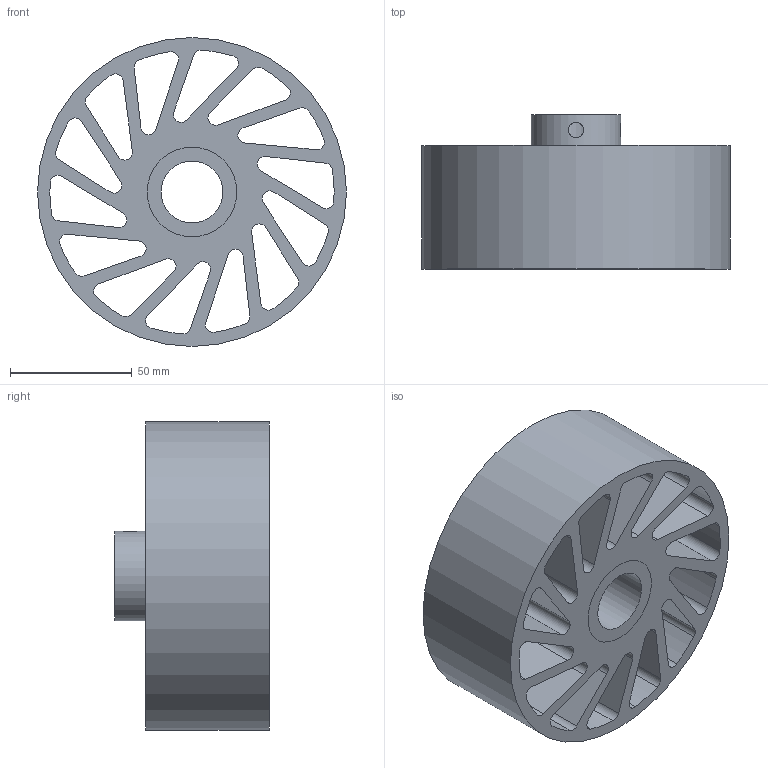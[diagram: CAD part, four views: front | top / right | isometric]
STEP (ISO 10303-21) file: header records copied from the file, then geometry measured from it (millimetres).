
FILE_DESCRIPTION(/* description */ (''),/* implementation_level */ '2;1');
FILE_NAME(/* name */ 'NCW-530-XXX-YYY.stp',/* time_stamp */ '2023-02-02T15:24:18-06:00',/* author */ ('AG'),/* organization */ ('Meridian Laboratory'),/* preprocessor_version */ 'ST-DEVELOPER v18.1',/* originating_system */ 'Autodesk Inventor 2022',/* authorisation */ '');
FILE_SCHEMA (('AUTOMOTIVE_DESIGN { 1 0 10303 214 3 1 1 }'));
Length unit declared in the file: inch
Products named in the file (1): NCW-440
Bounding box: 127 x 63.5 x 127 mm (x, y, z)
Volume: 341760.9 mm3; surface area: 113361.3 mm2
Topology: 2 solids, 2 shells, 94 faces, 276 edges, 186 vertices
Faces by surface type: cylinder 62, plane 32
Full cylindrical faces by diameter (mm): 6.35 x2, 25.425 x1, 36.83 x2, 127 x1
Entity records: 3530 total; most frequent: CARTESIAN_POINT 697, DIRECTION 576, ORIENTED_EDGE 552, EDGE_CURVE 276, AXIS2_PLACEMENT_3D 215, VERTEX_POINT 186, LINE 146, VECTOR 146
